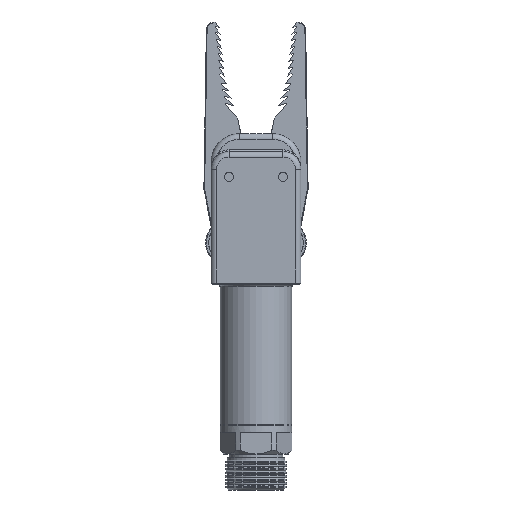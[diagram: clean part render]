
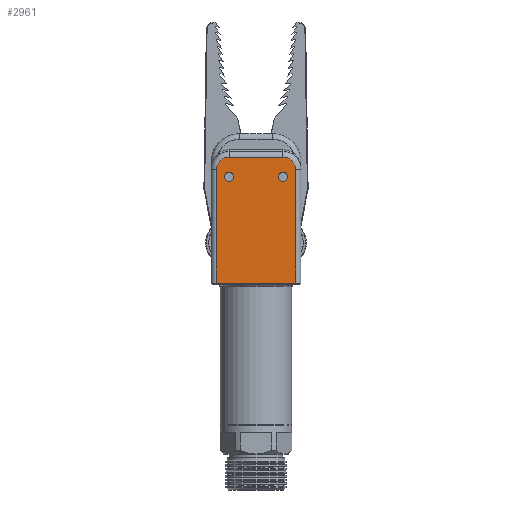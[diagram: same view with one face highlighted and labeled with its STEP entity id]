
A CAD part, left-side view. The second image highlights one B-rep face of the part: STEP entity #2961.
In plain terms, the highlighted planar face has unit normal (-1, 0, 0).
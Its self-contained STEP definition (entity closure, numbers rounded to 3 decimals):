
#1108=PLANE('',#8257);
#1693=LINE('',#11482,#2265);
#1694=LINE('',#11485,#2266);
#1695=LINE('',#11487,#2267);
#1696=LINE('',#11491,#2268);
#2265=VECTOR('',#9285,1.);
#2266=VECTOR('',#9286,1.);
#2267=VECTOR('',#9287,1.);
#2268=VECTOR('',#9290,1.);
#2961=ADVANCED_FACE('',(#3455,#3456,#3457),#1108,.T.);
#3455=FACE_BOUND('',#3667,.T.);
#3456=FACE_BOUND('',#3668,.T.);
#3457=FACE_BOUND('',#3669,.T.);
#3667=EDGE_LOOP('',(#4366));
#3668=EDGE_LOOP('',(#4367));
#3669=EDGE_LOOP('',(#4368,#4369,#4370,#4371,#4372,#4373));
#4366=ORIENTED_EDGE('',*,*,#6872,.T.);
#4367=ORIENTED_EDGE('',*,*,#6874,.T.);
#4368=ORIENTED_EDGE('',*,*,#6929,.T.);
#4369=ORIENTED_EDGE('',*,*,#6930,.T.);
#4370=ORIENTED_EDGE('',*,*,#6931,.T.);
#4371=ORIENTED_EDGE('',*,*,#6932,.T.);
#4372=ORIENTED_EDGE('',*,*,#6933,.T.);
#4373=ORIENTED_EDGE('',*,*,#6934,.T.);
#6175=VERTEX_POINT('',#11284);
#6177=VERTEX_POINT('',#11289);
#6229=VERTEX_POINT('',#11483);
#6230=VERTEX_POINT('',#11484);
#6231=VERTEX_POINT('',#11486);
#6232=VERTEX_POINT('',#11488);
#6233=VERTEX_POINT('',#11490);
#6234=VERTEX_POINT('',#11492);
#6872=EDGE_CURVE('',#6175,#6175,#7812,.T.);
#6874=EDGE_CURVE('',#6177,#6177,#7814,.T.);
#6929=EDGE_CURVE('',#6229,#6230,#1693,.T.);
#6930=EDGE_CURVE('',#6230,#6231,#1694,.T.);
#6931=EDGE_CURVE('',#6231,#6232,#1695,.T.);
#6932=EDGE_CURVE('',#6232,#6233,#7831,.T.);
#6933=EDGE_CURVE('',#6233,#6234,#1696,.T.);
#6934=EDGE_CURVE('',#6234,#6229,#7832,.T.);
#7812=CIRCLE('',#8223,1.25);
#7814=CIRCLE('',#8226,1.25);
#7831=CIRCLE('',#8255,3.5);
#7832=CIRCLE('',#8256,3.5);
#8223=AXIS2_PLACEMENT_3D('',#11283,#9189,#9190);
#8226=AXIS2_PLACEMENT_3D('',#11288,#9195,#9196);
#8255=AXIS2_PLACEMENT_3D('',#11489,#9288,#9289);
#8256=AXIS2_PLACEMENT_3D('',#11493,#9291,#9292);
#8257=AXIS2_PLACEMENT_3D('',#11494,#9293,#9294);
#9189=DIRECTION('',(1.,0.,0.));
#9190=DIRECTION('',(0.,1.,0.));
#9195=DIRECTION('',(1.,0.,0.));
#9196=DIRECTION('',(0.,1.,0.));
#9285=DIRECTION('',(0.,0.,-1.));
#9286=DIRECTION('',(0.,-1.,0.));
#9287=DIRECTION('',(0.,0.,1.));
#9288=DIRECTION('',(-1.,0.,0.));
#9289=DIRECTION('',(0.,-1.,0.));
#9290=DIRECTION('',(0.,1.,0.));
#9291=DIRECTION('',(-1.,0.,0.));
#9292=DIRECTION('',(0.,-1.,0.));
#9293=DIRECTION('',(-1.,0.,0.));
#9294=DIRECTION('',(0.,1.,0.));
#11283=CARTESIAN_POINT('',(-12.642,-6.207,109.5));
#11284=CARTESIAN_POINT('',(-12.642,-4.957,109.5));
#11288=CARTESIAN_POINT('',(-12.642,8.793,109.5));
#11289=CARTESIAN_POINT('',(-12.642,10.043,109.5));
#11482=CARTESIAN_POINT('',(-12.642,12.293,34.5));
#11483=CARTESIAN_POINT('',(-12.642,12.293,111.5));
#11484=CARTESIAN_POINT('',(-12.642,12.293,80.));
#11485=CARTESIAN_POINT('',(-12.642,-9.707,80.));
#11486=CARTESIAN_POINT('',(-12.642,-9.707,80.));
#11487=CARTESIAN_POINT('',(-12.642,-9.707,34.5));
#11488=CARTESIAN_POINT('',(-12.642,-9.707,111.5));
#11489=CARTESIAN_POINT('',(-12.642,-6.207,111.5));
#11490=CARTESIAN_POINT('',(-12.642,-6.207,115.));
#11491=CARTESIAN_POINT('',(-12.642,8.793,115.));
#11492=CARTESIAN_POINT('',(-12.642,8.793,115.));
#11493=CARTESIAN_POINT('',(-12.642,8.793,111.5));
#11494=CARTESIAN_POINT('',(-12.642,13.793,34.5));
